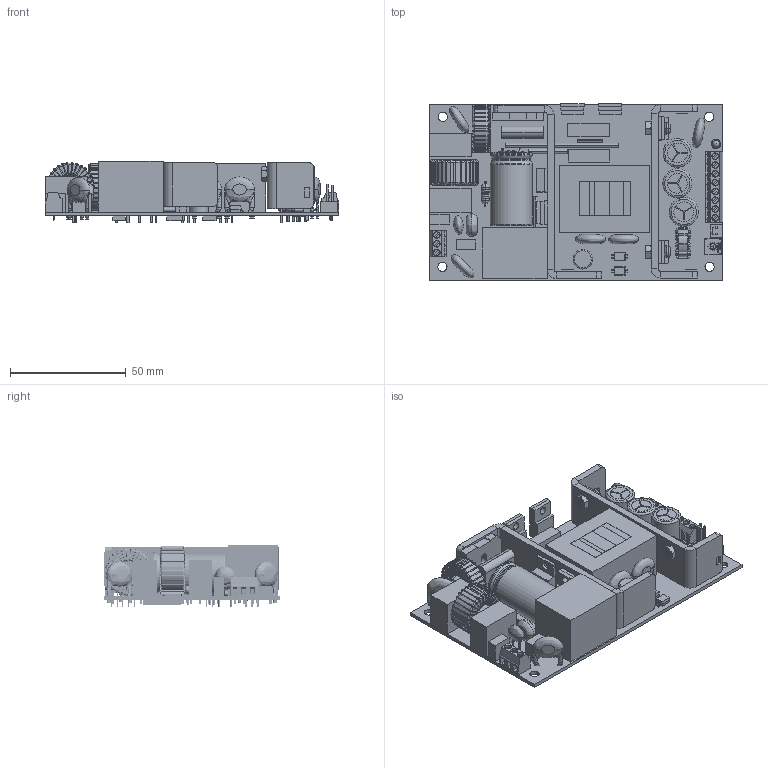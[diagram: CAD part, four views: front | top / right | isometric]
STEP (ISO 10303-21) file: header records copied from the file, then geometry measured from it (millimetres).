
FILE_DESCRIPTION (( 'STEP AP214' ), '1' );
FILE_NAME ('CFM100M.STEP', '2018-01-15T06:42:16', ( 'cincon' ), ( '' ), 'SwSTEP 2.0', 'SolidWorks 2008', '' );
FILE_SCHEMA (( 'AUTOMOTIVE_DESIGN' ));
Length unit declared in the file: millimetre
Products named in the file (32): CFM351M CY3-D20x10; TLP281_?? ?????????; GreenLED; Axial0_4_10Kx2; Axial0_4_3K3(980119); Z1(8.2X11.8)_預設; TO-220HS(980226); CFM351M L1D12x4.5; 橋式整流器電晶體_預設; 2 PIN插座960620; VR1_預設; CFM351M CY3 980903; CFM351M CY3-D20x7; EK381V-8P-1030213; EK381V-3P-1030213; ､鎹INA_ｹwｳ]; CFM100M ㄇ型散熱片75x20x20 t=3mm(M-B094-00-J)G6611310416_預設; 組合件2_預設; CFM351M CX(7_2X12)_預設; M3螺帽; CFM100M散熱片74.9x19x46.8 t=3(990412)_預設; 組合件1_預設; M3x6mm十字螺絲; 電晶體10mm; CFM100M PCB_預設; CFM100M; Electrolitic Capacitor Radial 10x20; 18.1mm電容-31.5mm
Assembly tree (42 placements, depth 3):
  Axial0_4_10Kx2
  CFM100M
    EK381V-8P-1030213
    橋式整流器電晶體_預設
    CFM351M CY3 980903
    Axial0_4_3K3(980119)
    EK381V-3P-1030213
    組合件2_預設  x2
      ､鎹INA_ｹwｳ]
      CFM100M ㄇ型散熱片75x20x20 t=3mm(M-B094-00-J)G6611310416_預設
    CFM351M CX(7_2X12)_預設  x5
    CFM351M CY3-D20x7
    Electrolitic Capacitor Radial 10x20  x3
    2 PIN插座960620
    CFM351M L1D12x4.5
    電晶體10mm
    M3螺帽  x2
    TLP281_?? ?????????  x2
    M3x6mm十字螺絲  x2
    GreenLED
    CFM351M CY3-D20x10
    Z1(8.2X11.8)_預設
    18.1mm電容-31.5mm
    電晶體10mm
    CFM100M PCB_預設
    VR1_預設
    電晶體10mm
    電晶體10mm
    組合件1_預設
      ､鎹INA_ｹwｳ]
      CFM100M散熱片74.9x19x46.8 t=3(990412)_預設
    TO-220HS(980226)
    電晶體10mm
Bounding box: 127 x 76.2 x 26.67 mm (x, y, z)
Volume: 113098.9 mm3; surface area: 68826 mm2
Topology: 53 solids, 53 shells, 3854 faces, 9977 edges, 6330 vertices
Faces by surface type: plane 1518, cylinder 1340, torus 640, bspline 281, cone 74, sphere 1
Entity records: 123566 total; most frequent: CARTESIAN_POINT 33574, ORIENTED_EDGE 17722, DIRECTION 16887, EDGE_CURVE 8861, AXIS2_PLACEMENT_3D 6363, VERTEX_POINT 5663, VECTOR 4161, LINE 4161
